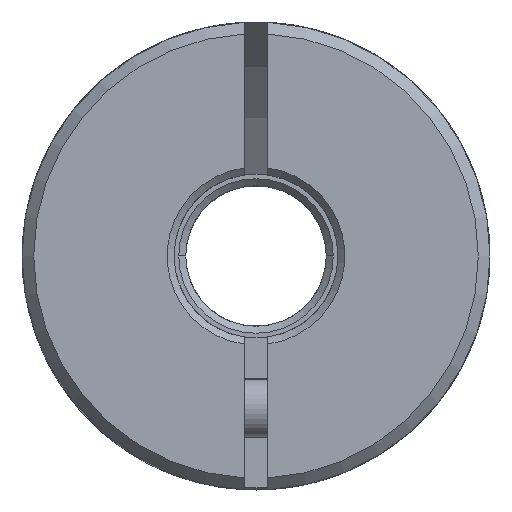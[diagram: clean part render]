
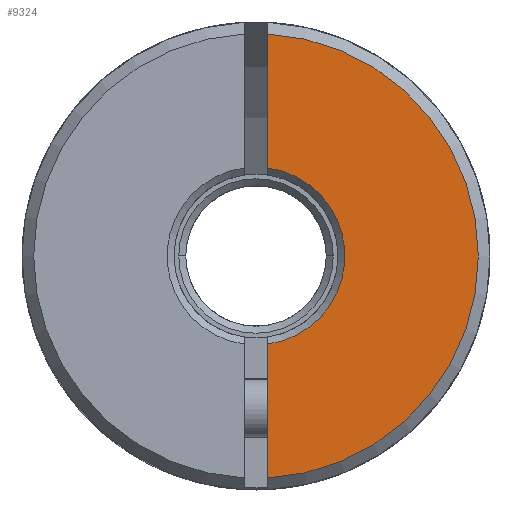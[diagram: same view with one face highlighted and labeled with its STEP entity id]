
A CAD part, front view. The second image highlights one B-rep face of the part: STEP entity #9324.
In plain terms, the highlighted planar face has unit normal (0, -1, 0).
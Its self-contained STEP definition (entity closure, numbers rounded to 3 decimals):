
#368 = VERTEX_POINT ( 'NONE', #1154 ) ;
#397 = CIRCLE ( 'NONE', #2388, 9.5 ) ;
#473 = CARTESIAN_POINT ( 'NONE',  ( 50., -33., -12.292 ) ) ;
#894 = DIRECTION ( 'NONE',  ( 0., 1., 0. ) ) ;
#1012 = CIRCLE ( 'NONE', #9085, 3.8 ) ;
#1055 = ORIENTED_EDGE ( 'NONE', *, *, #6315, .F. ) ;
#1154 = CARTESIAN_POINT ( 'NONE',  ( 0.5, -33., -3.767 ) ) ;
#1355 = ORIENTED_EDGE ( 'NONE', *, *, #10208, .F. ) ;
#1359 = CARTESIAN_POINT ( 'NONE',  ( 0.5, -33., 9.487 ) ) ;
#1708 = CARTESIAN_POINT ( 'NONE',  ( 0., -33., 0. ) ) ;
#2025 = PLANE ( 'NONE',  #3759 ) ;
#2259 = VERTEX_POINT ( 'NONE', #6103 ) ;
#2388 = AXIS2_PLACEMENT_3D ( 'NONE', #3772, #6860, #9302 ) ;
#2899 = EDGE_CURVE ( 'NONE', #2259, #8325, #397, .T. ) ;
#3096 = EDGE_LOOP ( 'NONE', ( #1055, #3487, #1355, #8306 ) ) ;
#3487 = ORIENTED_EDGE ( 'NONE', *, *, #2899, .T. ) ;
#3519 = DIRECTION ( 'NONE',  ( 0., 1., 0. ) ) ;
#3556 = EDGE_CURVE ( 'NONE', #7201, #368, #1012, .T. ) ;
#3601 = VECTOR ( 'NONE', #3770, 1000. ) ;
#3730 = CARTESIAN_POINT ( 'NONE',  ( 0.5, -33., -12.292 ) ) ;
#3759 = AXIS2_PLACEMENT_3D ( 'NONE', #473, #3519, #5186 ) ;
#3770 = DIRECTION ( 'NONE',  ( 0., 0., 1. ) ) ;
#3772 = CARTESIAN_POINT ( 'NONE',  ( 0., -33., 0. ) ) ;
#4622 = CARTESIAN_POINT ( 'NONE',  ( 0.5, -33., -12.292 ) ) ;
#4626 = VECTOR ( 'NONE', #8590, 1000. ) ;
#5186 = DIRECTION ( 'NONE',  ( 0., 0., -1. ) ) ;
#5958 = LINE ( 'NONE', #3730, #3601 ) ;
#6103 = CARTESIAN_POINT ( 'NONE',  ( 0.5, -33., -9.487 ) ) ;
#6315 = EDGE_CURVE ( 'NONE', #2259, #368, #5958, .T. ) ;
#6465 = DIRECTION ( 'NONE',  ( 0., 0., -1. ) ) ;
#6598 = LINE ( 'NONE', #4622, #4626 ) ;
#6860 = DIRECTION ( 'NONE',  ( 0., -1., 0. ) ) ;
#7201 = VERTEX_POINT ( 'NONE', #8093 ) ;
#8093 = CARTESIAN_POINT ( 'NONE',  ( 0.5, -33., 3.767 ) ) ;
#8145 = FACE_OUTER_BOUND ( 'NONE', #3096, .T. ) ;
#8306 = ORIENTED_EDGE ( 'NONE', *, *, #3556, .T. ) ;
#8325 = VERTEX_POINT ( 'NONE', #1359 ) ;
#8590 = DIRECTION ( 'NONE',  ( 0., 0., 1. ) ) ;
#9085 = AXIS2_PLACEMENT_3D ( 'NONE', #1708, #894, #6465 ) ;
#9302 = DIRECTION ( 'NONE',  ( 0., 0., -1. ) ) ;
#9324 = ADVANCED_FACE ( 'NONE', ( #8145 ), #2025, .F. ) ;
#10208 = EDGE_CURVE ( 'NONE', #7201, #8325, #6598, .T. ) ;
